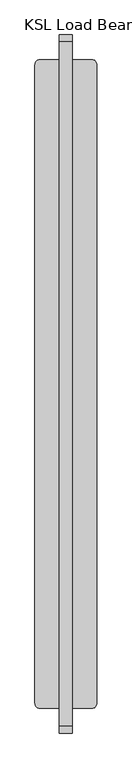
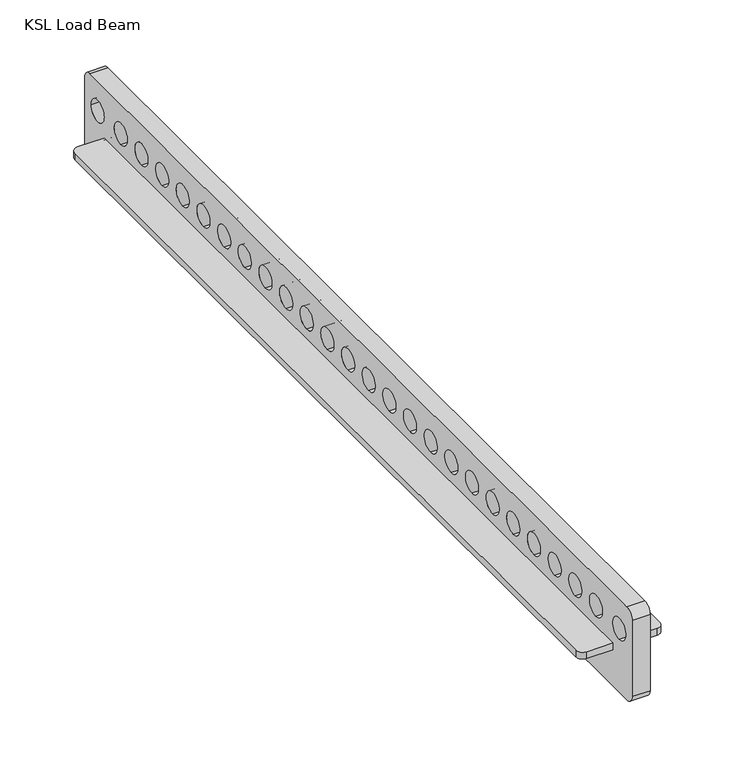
"""IFC4 building model written with IfcOpenShell, lengths in millimetres: proxy geometry, d&b SL-Series KSL Load Beam : KSL Load Beam."""

import ifcopenshell
import ifcopenshell.guid

model = None  # the IFC model being written
_history = None  # IfcOwnerHistory: only IFC2X3 demands one
_inside = {}  # id of a spatial element -> (the spatial element, [elements in it])
_under = {}  # id of a project, library or spatial element -> (it, [spatial elements below it])
_declared = {}  # id of a project -> (the project, [libraries it declares])
_typed = {}  # id of a type object -> (the type object, [elements of that type])
_made_of = {}  # id of a material, layer set ... -> (it, [elements and type objects made of it])


def new_model(schema):
    """Start an empty IFC model of exactly this schema.

    Asked for "IFC4X3", IfcOpenShell would pick the latest addendum, in which some entities
    have other attributes; the version numbers below select the first issue.
    IFC2X3 requires an IfcOwnerHistory on every rooted entity: one is made here for all.
    """
    global model, _history
    if schema == "IFC4X3":
        model = ifcopenshell.file(schema_version=(4, 3, 0, 0))
    else:
        model = ifcopenshell.file(schema=schema)
    _inside.clear()
    _under.clear()
    _declared.clear()
    _typed.clear()
    _made_of.clear()
    _history = None
    if model.schema == "IFC2X3":
        org = make("IfcOrganization", Name="unknown")
        user = make(
            "IfcPersonAndOrganization",
            ThePerson=make("IfcPerson", FamilyName="unknown"),
            TheOrganization=org,
        )
        app = make(
            "IfcApplication",
            ApplicationDeveloper=org,
            Version="unknown",
            ApplicationFullName="unknown",
            ApplicationIdentifier="unknown",
        )
        _history = make(
            "IfcOwnerHistory",
            OwningUser=user,
            OwningApplication=app,
            ChangeAction="ADDED",
            CreationDate=0,
        )
    return model


def make(cls, **values):
    """One entity of the class cls with the attributes given. An attribute that is None is left unset."""
    return model.create_entity(
        cls, **{name: value for name, value in values.items() if value is not None}
    )


def rooted(cls, **values):
    """An entity with a GlobalId (a new one), such as an element, a storey or a relation."""
    return make(cls, GlobalId=ifcopenshell.guid.new(), OwnerHistory=_history, **values)


def si_unit(unit_type, name, prefix=None):
    """IfcSIUnit, for example si_unit("LENGTHUNIT", "METRE", prefix="MILLI")."""
    return make("IfcSIUnit", UnitType=unit_type, Prefix=prefix, Name=name)


def assignment(units):
    """IfcUnitAssignment: the units of a project."""
    return None if units is None else make("IfcUnitAssignment", Units=units)


def point(xyz):
    """IfcCartesianPoint."""
    return None if xyz is None else make("IfcCartesianPoint", Coordinates=xyz)


def direction(xyz):
    """IfcDirection."""
    return None if xyz is None else make("IfcDirection", DirectionRatios=xyz)


def frame(location, z_axis=None, x_axis=None):
    """IfcAxis2Placement3D, a coordinate frame: its origin and axes. An axis left out is left unset."""
    return make(
        "IfcAxis2Placement3D",
        Location=point(location),
        Axis=direction(z_axis),
        RefDirection=direction(x_axis),
    )


def frame_2d(location, x_axis=None):
    """IfcAxis2Placement2D, a coordinate frame in the plane: its origin and x axis."""
    return make(
        "IfcAxis2Placement2D", Location=point(location), RefDirection=direction(x_axis)
    )


def origin():
    """The frame at (0, 0, 0) with its axes left unset."""
    return frame((0.0, 0.0, 0.0))


def place(relative_to, where):
    """IfcLocalPlacement: puts the frame where relative to a parent placement (None: the world)."""
    return make(
        "IfcLocalPlacement", PlacementRelTo=relative_to, RelativePlacement=where
    )


def context(
    kind, dimensions, precision=None, world=None, true_north=None, identifier=None
):
    """IfcGeometricRepresentationContext, for example the 3D "Model" context."""
    return make(
        "IfcGeometricRepresentationContext",
        ContextIdentifier=identifier,
        ContextType=kind,
        CoordinateSpaceDimension=dimensions,
        Precision=precision,
        WorldCoordinateSystem=world,
        TrueNorth=true_north,
    )


def project(units=None, contexts=None):
    """IfcProject with its units and contexts."""
    return rooted(
        "IfcProject",
        Name="project",
        RepresentationContexts=contexts,
        UnitsInContext=assignment(units),
    )


def spatial(cls, under=None, at=None, **own):
    """A site, building, storey or space (cls), placed at a placement, below another one or the project."""
    s = rooted(cls, ObjectPlacement=at, **own)
    if under is not None:
        _under.setdefault(under.id(), (under, []))[1].append(s)
    return s


def polyline(points):
    """IfcPolyline through the points."""
    return make("IfcPolyline", Points=[point(p) for p in points])


def circle_curve(where, radius):
    """IfcCircle in the frame where."""
    return make("IfcCircle", Position=where, Radius=radius)


def trimmed(basis, trim1, trim2, sense, master):
    """IfcTrimmedCurve: the piece of a basis curve between two trims."""
    return make(
        "IfcTrimmedCurve",
        BasisCurve=basis,
        Trim1=trim1,
        Trim2=trim2,
        SenseAgreement=sense,
        MasterRepresentation=master,
    )


def segment(curve, same_sense, transition):
    """IfcCompositeCurveSegment."""
    return make(
        "IfcCompositeCurveSegment",
        Transition=transition,
        SameSense=same_sense,
        ParentCurve=curve,
    )


def composite_curve(segments, self_intersect=None):
    """IfcCompositeCurve: segments joined end to end."""
    return make("IfcCompositeCurve", Segments=segments, SelfIntersect=self_intersect)


def outline(outer, holes=None, kind="AREA"):
    """IfcArbitraryClosedProfileDef: a profile drawn as a closed curve; with holes, ...WithVoids."""
    if holes is None:
        return make("IfcArbitraryClosedProfileDef", ProfileType=kind, OuterCurve=outer)
    return make(
        "IfcArbitraryProfileDefWithVoids",
        ProfileType=kind,
        OuterCurve=outer,
        InnerCurves=holes,
    )


def extrude(swept, where, along, depth):
    """IfcExtrudedAreaSolid: the profile swept, set in the frame where, extruded along a direction by depth."""
    return make(
        "IfcExtrudedAreaSolid",
        SweptArea=swept,
        Position=where,
        ExtrudedDirection=direction(along),
        Depth=depth,
    )


def shape(context_of_items, identifier, shape_type, items):
    """IfcShapeRepresentation: the items that make up one representation, for example the "Body"."""
    return make(
        "IfcShapeRepresentation",
        ContextOfItems=context_of_items,
        RepresentationIdentifier=identifier,
        RepresentationType=shape_type,
        Items=items,
    )


def source(mapping_origin, context_of_items, identifier, shape_type, items):
    """IfcRepresentationMap: a shape defined once, which mapped items show again and again."""
    return make(
        "IfcRepresentationMap",
        MappingOrigin=mapping_origin,
        MappedRepresentation=shape(context_of_items, identifier, shape_type, items),
    )


def transform(
    local_origin,
    x_axis=None,
    y_axis=None,
    z_axis=None,
    scale=None,
    scale2=None,
    scale3=None,
    uniform=True,
):
    """IfcCartesianTransformationOperator3D, or its non-uniform kind. x_axis, y_axis, z_axis: its Axis1, 2, 3."""
    if uniform:
        return make(
            "IfcCartesianTransformationOperator3D",
            Axis1=direction(x_axis),
            Axis2=direction(y_axis),
            LocalOrigin=point(local_origin),
            Scale=scale,
            Axis3=direction(z_axis),
        )
    return make(
        "IfcCartesianTransformationOperator3DnonUniform",
        Axis1=direction(x_axis),
        Axis2=direction(y_axis),
        LocalOrigin=point(local_origin),
        Scale=scale,
        Axis3=direction(z_axis),
        Scale2=scale2,
        Scale3=scale3,
    )


def mapped(mapping_source, mapping_target):
    """IfcMappedItem: shows the shape of a source again, moved by a transform."""
    return make(
        "IfcMappedItem", MappingSource=mapping_source, MappingTarget=mapping_target
    )


def made_of(thing, what):
    """Note that an element or type object is made of a material, layer set ...; save() writes the relation."""
    if what is not None:
        _made_of.setdefault(what.id(), (what, []))[1].append(thing)
    return thing


def element(
    cls,
    number,
    at=None,
    inside=None,
    cuts=None,
    type_object=None,
    material=None,
    context=None,
    identifier="Body",
    shape_type=None,
    held_by="IfcProductDefinitionShape",
    body=None,
    shapes=None,
    **own,
):
    """One element of the class cls, such as IfcWall. Its Tag is "e" and its number.

    at: its placement. inside: the storey or other place that contains it. cuts: it is an
    opening in that element (IfcRelVoidsElement). A single representation is given by context,
    identifier, shape_type and body (its items); several are given by shapes. held_by: the class
    of the entity that holds the representations. save() writes the other relations.
    """
    e = rooted(cls, Tag="e%d" % number, ObjectPlacement=at, **own)
    if body is not None:
        shapes = [shape(context, identifier, shape_type, body)]
    if shapes is not None:
        e.Representation = make(held_by, Representations=shapes)
    if inside is not None:
        _inside.setdefault(inside.id(), (inside, []))[1].append(e)
    if cuts is not None:
        rooted(
            "IfcRelVoidsElement", RelatingBuildingElement=cuts, RelatedOpeningElement=e
        )
    if type_object is not None:
        _typed.setdefault(type_object.id(), (type_object, []))[1].append(e)
    return made_of(e, material)


def aggregate(whole, parts):
    """IfcRelAggregates: a whole, such as a stair, and the parts it consists of."""
    return rooted("IfcRelAggregates", RelatingObject=whole, RelatedObjects=parts)


def save(model, path):
    """Write the relations noted so far, then the file.

    IfcRelAggregates (storeys below a building ...), IfcRelContainedInSpatialStructure (elements
    in a storey), IfcRelDefinesByType, IfcRelAssociatesMaterial and IfcRelDeclares: one each for
    every whole, place, type object, material and project.
    """
    for whole, parts in _under.values():
        aggregate(whole, parts)
    for where, things in _inside.values():
        rooted(
            "IfcRelContainedInSpatialStructure",
            RelatedElements=things,
            RelatingStructure=where,
        )
    for kind, things in _typed.values():
        rooted("IfcRelDefinesByType", RelatedObjects=things, RelatingType=kind)
    for what, things in _made_of.values():
        rooted("IfcRelAssociatesMaterial", RelatedObjects=things, RelatingMaterial=what)
    for by, libraries in _declared.values():
        rooted("IfcRelDeclares", RelatingContext=by, RelatedDefinitions=libraries)
    model.write(path)


def ksl_load_beam_aa081bf2(model_context):
    return source(origin(), model_context, "Body", "SweptSolid", [
        extrude(outline(composite_curve([segment(trimmed(circle_curve(frame_2d((39.3, 8.1954278)), 7.7), [point((47.0, 8.1954278))], [point((39.3, 0.4954278))], False, "CARTESIAN"), True, "CONTINUOUS"), segment(polyline([(39.3, 0.4954278), (10.0, 0.4954278), (10.0, 985.4954278), (39.3, 985.4954278)]), True, "CONTINUOUS"), segment(trimmed(circle_curve(frame_2d((39.3, 977.7954278)), 7.7), [point((39.3, 985.4954278))], [point((47.0, 977.7954278))], False, "CARTESIAN"), True, "CONTINUOUS"), segment(polyline([(47.0, 977.7954278), (47.0, 8.1954278)]), True, "CONTINUOUS")], self_intersect=False)), frame((0.0, 0.0, 118.0), z_axis=(0.0, 0.0, 1.0), x_axis=(1.0, 0.0, 0.0)), (0.0, 0.0, 1.0), 8.0),
        extrude(outline(composite_curve([segment(trimmed(circle_curve(frame_2d((-39.3, 8.1954278)), 7.7), [point((-39.3, 0.4954278))], [point((-47.0, 8.1954278))], False, "CARTESIAN"), True, "CONTINUOUS"), segment(polyline([(-47.0, 8.1954278), (-47.0, 977.7954278)]), True, "CONTINUOUS"), segment(trimmed(circle_curve(frame_2d((-39.3, 977.7954278)), 7.7), [point((-47.0, 977.7954278))], [point((-39.3, 985.4954278))], False, "CARTESIAN"), True, "CONTINUOUS"), segment(polyline([(-39.3, 985.4954278), (-10.0, 985.4954278), (-10.0, 0.4954278), (-39.3, 0.4954278)]), True, "CONTINUOUS")], self_intersect=False)), frame((0.0, 0.0, 118.0), z_axis=(0.0, 0.0, 1.0), x_axis=(1.0, 0.0, 0.0)), (0.0, 0.0, 1.0), 8.0),
        extrude(outline(composite_curve([segment(polyline([(-27.0045722, 185.5), (1012.9954278, 185.5)]), True, "CONTINUOUS"), segment(trimmed(circle_curve(frame_2d((1012.9954278, 175.5)), 10.0), [point((1012.9954278, 185.5))], [point((1022.9954278, 175.5))], False, "CARTESIAN"), True, "CONTINUOUS"), segment(polyline([(1022.9954278, 175.5), (1022.9954278, 85.5)]), True, "CONTINUOUS"), segment(trimmed(circle_curve(frame_2d((1012.9954278, 85.5)), 10.0), [point((1022.9954278, 85.5))], [point((1012.9954278, 75.5))], False, "CARTESIAN"), True, "CONTINUOUS"), segment(polyline([(1012.9954278, 75.5), (-27.0045722, 75.5)]), True, "CONTINUOUS"), segment(trimmed(circle_curve(frame_2d((-27.0045722, 85.5)), 10.0), [point((-27.0045722, 75.5))], [point((-37.0045722, 85.5))], False, "CARTESIAN"), True, "CONTINUOUS"), segment(polyline([(-37.0045722, 85.5), (-37.0045722, 175.5)]), True, "CONTINUOUS"), segment(trimmed(circle_curve(frame_2d((-27.0045722, 175.5)), 10.0), [point((-37.0045722, 175.5))], [point((-27.0045722, 185.5))], False, "CARTESIAN"), True, "CONTINUOUS")], self_intersect=False), holes=[composite_curve([segment(trimmed(circle_curve(frame_2d((952.9954278, 150.5)), 12.5), [point((952.9954278, 138.0))], [point((952.9954278, 163.0))], True, "CARTESIAN"), True, "CONTINUOUS"), segment(trimmed(circle_curve(frame_2d((952.9954278, 150.5)), 12.5), [point((952.9954278, 163.0))], [point((952.9954278, 138.0))], True, "CARTESIAN"), True, "CONTINUOUS")], self_intersect=False), composite_curve([segment(trimmed(circle_curve(frame_2d((912.9954278, 150.5)), 12.5), [point((912.9954278, 138.0))], [point((912.9954278, 163.0))], True, "CARTESIAN"), True, "CONTINUOUS"), segment(trimmed(circle_curve(frame_2d((912.9954278, 150.5)), 12.5), [point((912.9954278, 163.0))], [point((912.9954278, 138.0))], True, "CARTESIAN"), True, "CONTINUOUS")], self_intersect=False), composite_curve([segment(trimmed(circle_curve(frame_2d((872.9954278, 150.5)), 12.5), [point((872.9954278, 138.0))], [point((872.9954278, 163.0))], True, "CARTESIAN"), True, "CONTINUOUS"), segment(trimmed(circle_curve(frame_2d((872.9954278, 150.5)), 12.5), [point((872.9954278, 163.0))], [point((872.9954278, 138.0))], True, "CARTESIAN"), True, "CONTINUOUS")], self_intersect=False), composite_curve([segment(trimmed(circle_curve(frame_2d((832.9954278, 150.5)), 12.5), [point((832.9954278, 138.0))], [point((832.9954278, 163.0))], True, "CARTESIAN"), True, "CONTINUOUS"), segment(trimmed(circle_curve(frame_2d((832.9954278, 150.5)), 12.5), [point((832.9954278, 163.0))], [point((832.9954278, 138.0))], True, "CARTESIAN"), True, "CONTINUOUS")], self_intersect=False), composite_curve([segment(trimmed(circle_curve(frame_2d((672.9954278, 150.5)), 12.5), [point((672.9954278, 138.0))], [point((672.9954278, 163.0))], True, "CARTESIAN"), True, "CONTINUOUS"), segment(trimmed(circle_curve(frame_2d((672.9954278, 150.5)), 12.5), [point((672.9954278, 163.0))], [point((672.9954278, 138.0))], True, "CARTESIAN"), True, "CONTINUOUS")], self_intersect=False), composite_curve([segment(trimmed(circle_curve(frame_2d((712.9954278, 150.5)), 12.5), [point((712.9954278, 138.0))], [point((712.9954278, 163.0))], True, "CARTESIAN"), True, "CONTINUOUS"), segment(trimmed(circle_curve(frame_2d((712.9954278, 150.5)), 12.5), [point((712.9954278, 163.0))], [point((712.9954278, 138.0))], True, "CARTESIAN"), True, "CONTINUOUS")], self_intersect=False), composite_curve([segment(trimmed(circle_curve(frame_2d((752.9954278, 150.5)), 12.5), [point((752.9954278, 138.0))], [point((752.9954278, 163.0))], True, "CARTESIAN"), True, "CONTINUOUS"), segment(trimmed(circle_curve(frame_2d((752.9954278, 150.5)), 12.5), [point((752.9954278, 163.0))], [point((752.9954278, 138.0))], True, "CARTESIAN"), True, "CONTINUOUS")], self_intersect=False), composite_curve([segment(trimmed(circle_curve(frame_2d((792.9954278, 150.5)), 12.5), [point((792.9954278, 138.0))], [point((792.9954278, 163.0))], True, "CARTESIAN"), True, "CONTINUOUS"), segment(trimmed(circle_curve(frame_2d((792.9954278, 150.5)), 12.5), [point((792.9954278, 163.0))], [point((792.9954278, 138.0))], True, "CARTESIAN"), True, "CONTINUOUS")], self_intersect=False), composite_curve([segment(trimmed(circle_curve(frame_2d((352.9954278, 150.5)), 12.5), [point((352.9954278, 138.0))], [point((352.9954278, 163.0))], True, "CARTESIAN"), True, "CONTINUOUS"), segment(trimmed(circle_curve(frame_2d((352.9954278, 150.5)), 12.5), [point((352.9954278, 163.0))], [point((352.9954278, 138.0))], True, "CARTESIAN"), True, "CONTINUOUS")], self_intersect=False), composite_curve([segment(trimmed(circle_curve(frame_2d((392.9954278, 150.5)), 12.5), [point((392.9954278, 138.0))], [point((392.9954278, 163.0))], True, "CARTESIAN"), True, "CONTINUOUS"), segment(trimmed(circle_curve(frame_2d((392.9954278, 150.5)), 12.5), [point((392.9954278, 163.0))], [point((392.9954278, 138.0))], True, "CARTESIAN"), True, "CONTINUOUS")], self_intersect=False), composite_curve([segment(trimmed(circle_curve(frame_2d((432.9954278, 150.5)), 12.5), [point((432.9954278, 138.0))], [point((432.9954278, 163.0))], True, "CARTESIAN"), True, "CONTINUOUS"), segment(trimmed(circle_curve(frame_2d((432.9954278, 150.5)), 12.5), [point((432.9954278, 163.0))], [point((432.9954278, 138.0))], True, "CARTESIAN"), True, "CONTINUOUS")], self_intersect=False), composite_curve([segment(trimmed(circle_curve(frame_2d((472.9954278, 150.5)), 12.5), [point((472.9954278, 138.0))], [point((472.9954278, 163.0))], True, "CARTESIAN"), True, "CONTINUOUS"), segment(trimmed(circle_curve(frame_2d((472.9954278, 150.5)), 12.5), [point((472.9954278, 163.0))], [point((472.9954278, 138.0))], True, "CARTESIAN"), True, "CONTINUOUS")], self_intersect=False), composite_curve([segment(trimmed(circle_curve(frame_2d((512.9954278, 150.5)), 12.5), [point((512.9954278, 138.0))], [point((512.9954278, 163.0))], True, "CARTESIAN"), True, "CONTINUOUS"), segment(trimmed(circle_curve(frame_2d((512.9954278, 150.5)), 12.5), [point((512.9954278, 163.0))], [point((512.9954278, 138.0))], True, "CARTESIAN"), True, "CONTINUOUS")], self_intersect=False), composite_curve([segment(trimmed(circle_curve(frame_2d((632.9954278, 150.5)), 12.5), [point((632.9954278, 138.0))], [point((632.9954278, 163.0))], True, "CARTESIAN"), True, "CONTINUOUS"), segment(trimmed(circle_curve(frame_2d((632.9954278, 150.5)), 12.5), [point((632.9954278, 163.0))], [point((632.9954278, 138.0))], True, "CARTESIAN"), True, "CONTINUOUS")], self_intersect=False), composite_curve([segment(trimmed(circle_curve(frame_2d((592.9954278, 150.5)), 12.5), [point((592.9954278, 138.0))], [point((592.9954278, 163.0))], True, "CARTESIAN"), True, "CONTINUOUS"), segment(trimmed(circle_curve(frame_2d((592.9954278, 150.5)), 12.5), [point((592.9954278, 163.0))], [point((592.9954278, 138.0))], True, "CARTESIAN"), True, "CONTINUOUS")], self_intersect=False), composite_curve([segment(trimmed(circle_curve(frame_2d((552.9954278, 150.5)), 12.5), [point((552.9954278, 138.0))], [point((552.9954278, 163.0))], True, "CARTESIAN"), True, "CONTINUOUS"), segment(trimmed(circle_curve(frame_2d((552.9954278, 150.5)), 12.5), [point((552.9954278, 163.0))], [point((552.9954278, 138.0))], True, "CARTESIAN"), True, "CONTINUOUS")], self_intersect=False), composite_curve([segment(trimmed(circle_curve(frame_2d((32.9954278, 150.5)), 12.5), [point((32.9954278, 138.0))], [point((32.9954278, 163.0))], True, "CARTESIAN"), True, "CONTINUOUS"), segment(trimmed(circle_curve(frame_2d((32.9954278, 150.5)), 12.5), [point((32.9954278, 163.0))], [point((32.9954278, 138.0))], True, "CARTESIAN"), True, "CONTINUOUS")], self_intersect=False), composite_curve([segment(trimmed(circle_curve(frame_2d((-12.0045722, 150.5)), 12.5), [point((-12.0045722, 138.0))], [point((-12.0045722, 163.0))], True, "CARTESIAN"), True, "CONTINUOUS"), segment(trimmed(circle_curve(frame_2d((-12.0045722, 150.5)), 12.5), [point((-12.0045722, 163.0))], [point((-12.0045722, 138.0))], True, "CARTESIAN"), True, "CONTINUOUS")], self_intersect=False), composite_curve([segment(trimmed(circle_curve(frame_2d((312.9954278, 150.5)), 12.5), [point((312.9954278, 138.0))], [point((312.9954278, 163.0))], True, "CARTESIAN"), True, "CONTINUOUS"), segment(trimmed(circle_curve(frame_2d((312.9954278, 150.5)), 12.5), [point((312.9954278, 163.0))], [point((312.9954278, 138.0))], True, "CARTESIAN"), True, "CONTINUOUS")], self_intersect=False), composite_curve([segment(trimmed(circle_curve(frame_2d((272.9954278, 150.5)), 12.5), [point((272.9954278, 138.0))], [point((272.9954278, 163.0))], True, "CARTESIAN"), True, "CONTINUOUS"), segment(trimmed(circle_curve(frame_2d((272.9954278, 150.5)), 12.5), [point((272.9954278, 163.0))], [point((272.9954278, 138.0))], True, "CARTESIAN"), True, "CONTINUOUS")], self_intersect=False), composite_curve([segment(trimmed(circle_curve(frame_2d((232.9954278, 150.5)), 12.5), [point((232.9954278, 138.0))], [point((232.9954278, 163.0))], True, "CARTESIAN"), True, "CONTINUOUS"), segment(trimmed(circle_curve(frame_2d((232.9954278, 150.5)), 12.5), [point((232.9954278, 163.0))], [point((232.9954278, 138.0))], True, "CARTESIAN"), True, "CONTINUOUS")], self_intersect=False), composite_curve([segment(trimmed(circle_curve(frame_2d((192.9954278, 150.5)), 12.5), [point((192.9954278, 138.0))], [point((192.9954278, 163.0))], True, "CARTESIAN"), True, "CONTINUOUS"), segment(trimmed(circle_curve(frame_2d((192.9954278, 150.5)), 12.5), [point((192.9954278, 163.0))], [point((192.9954278, 138.0))], True, "CARTESIAN"), True, "CONTINUOUS")], self_intersect=False), composite_curve([segment(trimmed(circle_curve(frame_2d((72.9954278, 150.5)), 12.5), [point((72.9954278, 138.0))], [point((72.9954278, 163.0))], True, "CARTESIAN"), True, "CONTINUOUS"), segment(trimmed(circle_curve(frame_2d((72.9954278, 150.5)), 12.5), [point((72.9954278, 163.0))], [point((72.9954278, 138.0))], True, "CARTESIAN"), True, "CONTINUOUS")], self_intersect=False), composite_curve([segment(trimmed(circle_curve(frame_2d((112.9954278, 150.5)), 12.5), [point((112.9954278, 138.0))], [point((112.9954278, 163.0))], True, "CARTESIAN"), True, "CONTINUOUS"), segment(trimmed(circle_curve(frame_2d((112.9954278, 150.5)), 12.5), [point((112.9954278, 163.0))], [point((112.9954278, 138.0))], True, "CARTESIAN"), True, "CONTINUOUS")], self_intersect=False), composite_curve([segment(trimmed(circle_curve(frame_2d((152.9954278, 150.5)), 12.5), [point((152.9954278, 138.0))], [point((152.9954278, 163.0))], True, "CARTESIAN"), True, "CONTINUOUS"), segment(trimmed(circle_curve(frame_2d((152.9954278, 150.5)), 12.5), [point((152.9954278, 163.0))], [point((152.9954278, 138.0))], True, "CARTESIAN"), True, "CONTINUOUS")], self_intersect=False), composite_curve([segment(trimmed(circle_curve(frame_2d((43.9954278, 95.5)), 8.2930381), [point((35.7023897, 95.5))], [point((52.288466, 95.5))], True, "CARTESIAN"), True, "CONTINUOUS"), segment(trimmed(circle_curve(frame_2d((43.9954278, 95.5)), 8.2930381), [point((52.288466, 95.5))], [point((35.7023897, 95.5))], True, "CARTESIAN"), True, "CONTINUOUS")], self_intersect=False), composite_curve([segment(trimmed(circle_curve(frame_2d((997.9954278, 150.5)), 12.5), [point((1010.4954278, 150.5))], [point((985.4954278, 150.5))], True, "CARTESIAN"), True, "CONTINUOUS"), segment(trimmed(circle_curve(frame_2d((997.9954278, 150.5)), 12.5), [point((985.4954278, 150.5))], [point((1010.4954278, 150.5))], True, "CARTESIAN"), True, "CONTINUOUS")], self_intersect=False), composite_curve([segment(trimmed(circle_curve(frame_2d((367.9954278, 95.5)), 8.5), [point((376.4954278, 95.5))], [point((359.4954278, 95.5))], True, "CARTESIAN"), True, "CONTINUOUS"), segment(trimmed(circle_curve(frame_2d((367.9954278, 95.5)), 8.5), [point((359.4954278, 95.5))], [point((376.4954278, 95.5))], True, "CARTESIAN"), True, "CONTINUOUS")], self_intersect=False), composite_curve([segment(trimmed(circle_curve(frame_2d((546.9954278, 95.5)), 8.5), [point((555.4954278, 95.5))], [point((538.4954278, 95.5))], True, "CARTESIAN"), True, "CONTINUOUS"), segment(trimmed(circle_curve(frame_2d((546.9954278, 95.5)), 8.5), [point((538.4954278, 95.5))], [point((555.4954278, 95.5))], True, "CARTESIAN"), True, "CONTINUOUS")], self_intersect=False), composite_curve([segment(trimmed(circle_curve(frame_2d((784.9954278, 95.5)), 10.5), [point((795.4954278, 95.5))], [point((774.4954278, 95.5))], True, "CARTESIAN"), True, "CONTINUOUS"), segment(trimmed(circle_curve(frame_2d((784.9954278, 95.5)), 10.5), [point((774.4954278, 95.5))], [point((795.4954278, 95.5))], True, "CARTESIAN"), True, "CONTINUOUS")], self_intersect=False), composite_curve([segment(trimmed(circle_curve(frame_2d((997.9954278, 97.0)), 12.5), [point((1010.4954278, 97.0))], [point((985.4954278, 97.0))], True, "CARTESIAN"), True, "CONTINUOUS"), segment(trimmed(circle_curve(frame_2d((997.9954278, 97.0)), 12.5), [point((985.4954278, 97.0))], [point((1010.4954278, 97.0))], True, "CARTESIAN"), True, "CONTINUOUS")], self_intersect=False), composite_curve([segment(trimmed(circle_curve(frame_2d((940.4954278, 95.5)), 10.5), [point((950.9954278, 95.5))], [point((929.9954278, 95.5))], True, "CARTESIAN"), True, "CONTINUOUS"), segment(trimmed(circle_curve(frame_2d((940.4954278, 95.5)), 10.5), [point((929.9954278, 95.5))], [point((950.9954278, 95.5))], True, "CARTESIAN"), True, "CONTINUOUS")], self_intersect=False), composite_curve([segment(trimmed(circle_curve(frame_2d((870.9954278, 95.5)), 8.5), [point((879.4954278, 95.5))], [point((862.4954278, 95.5))], True, "CARTESIAN"), True, "CONTINUOUS"), segment(trimmed(circle_curve(frame_2d((870.9954278, 95.5)), 8.5), [point((862.4954278, 95.5))], [point((879.4954278, 95.5))], True, "CARTESIAN"), True, "CONTINUOUS")], self_intersect=False)]), frame((-10.0, 0.0, 0.0), z_axis=(1.0, 0.0, 0.0), x_axis=(0.0, 1.0, 0.0)), (0.0, 0.0, 1.0), 20.0),
    ])


if __name__ == "__main__":
    model = new_model("IFC4")
    model_context = context("Model", 3, world=origin())
    ifc_project = project(units=[si_unit("LENGTHUNIT", "METRE", prefix="MILLI")], contexts=[model_context])
    site = spatial("IfcSite", under=ifc_project)
    building = spatial("IfcBuilding", under=site)
    placement = place(None, origin())
    ksl_load_beam_shape = ksl_load_beam_aa081bf2(model_context)
    element("IfcBuildingElementProxy", 1, Name="d&b SL-Series KSL Load Beam : KSL Load Beam", ObjectType="d&b SL-Series KSL Load Beam : KSL Load Beam", at=placement, inside=building, context=model_context, shape_type="MappedRepresentation", body=[
        mapped(ksl_load_beam_shape, transform((0.0, 0.0, 0.0), x_axis=(1.0, 0.0, 0.0), y_axis=(0.0, 1.0, 0.0), z_axis=(0.0, 0.0, 1.0))),
    ])
    save(model, "model.ifc")
